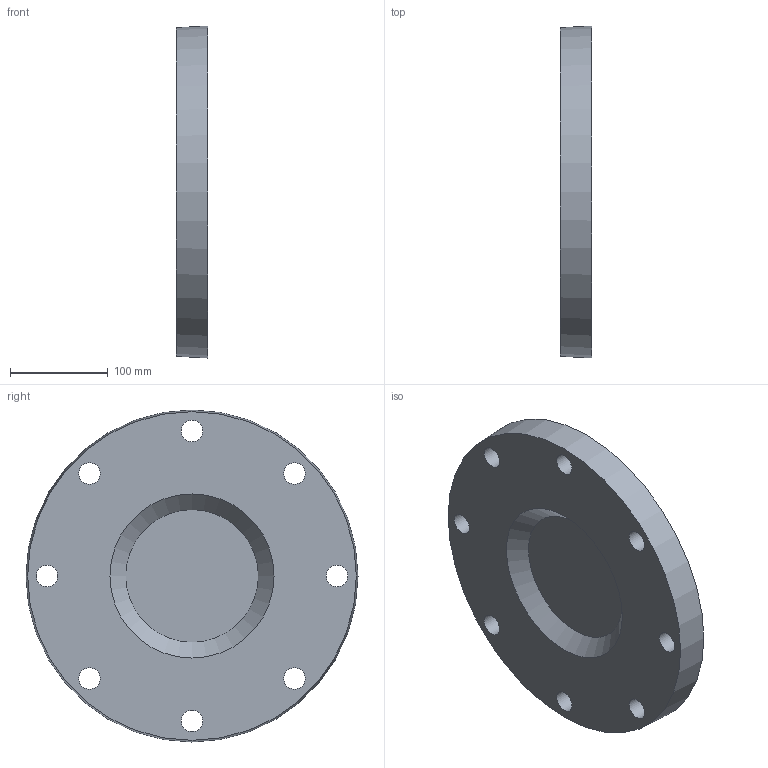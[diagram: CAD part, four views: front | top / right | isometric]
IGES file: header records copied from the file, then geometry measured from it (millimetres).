
Global section: file name: 059100200.ipt; native system: Autodesk Inventor 2015; preprocessor: unknown; author: KIM; date: 20171207.165935; units: millimetre
Bounding box: 32 x 340 x 340 mm (x, y, z)
Volume: 2486094.2 mm3; surface area: 230463.1 mm2
Topology: 1 solids, 1 shells, 25 faces, 50 edges, 34 vertices
Faces by surface type: revolution 12, plane 9, cylinder 3, cone 1
Full cylindrical faces by diameter (mm): 136 x1, 142.8 x1, 149.6 x1
